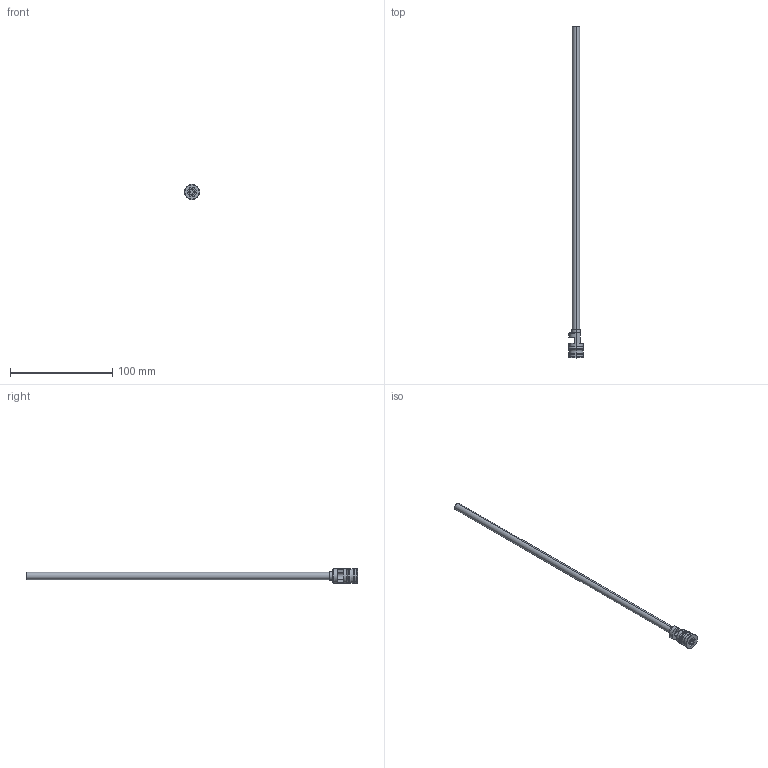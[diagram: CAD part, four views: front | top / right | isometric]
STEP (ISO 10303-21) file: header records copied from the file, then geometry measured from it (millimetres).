
FILE_DESCRIPTION (( 'STEP AP203' ), '1' );
FILE_NAME ('RF-14Fx300.STEP', '2015-11-20T10:29:30', ( 'Balzi' ), ( '' ), 'SwSTEP 2.0', 'SolidWorks 2015', '' );
FILE_SCHEMA (( 'CONFIG_CONTROL_DESIGN' ));
Length unit declared in the file: millimetre
Products named in the file (1): RF-14Fx300
Bounding box: 15.3 x 324.5 x 15.3 mm (x, y, z)
Volume: 5614 mm3; surface area: 14202 mm2
Topology: 1 solids, 1 shells, 71 faces, 164 edges, 102 vertices
Faces by surface type: cylinder 26, plane 25, cone 12, torus 8
Entity records: 2114 total; most frequent: DIRECTION 385, CARTESIAN_POINT 357, ORIENTED_EDGE 328, EDGE_CURVE 164, AXIS2_PLACEMENT_3D 154, VERTEX_POINT 102, CIRCLE 82, EDGE_LOOP 80
